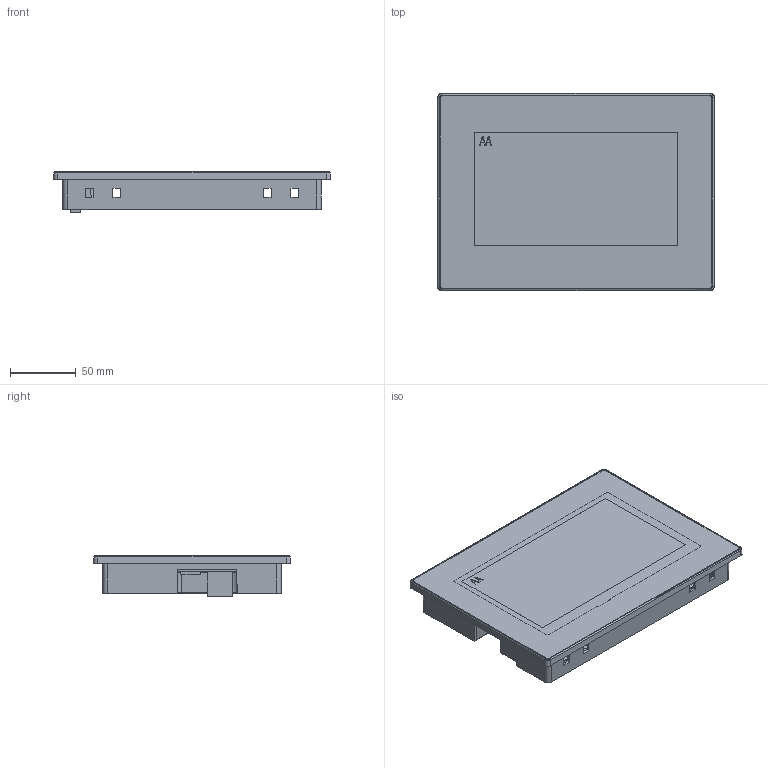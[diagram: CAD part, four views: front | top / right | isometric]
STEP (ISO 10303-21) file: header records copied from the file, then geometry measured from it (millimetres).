
FILE_DESCRIPTION(/* description */ (''),/* implementation_level */ '2;1');
FILE_NAME(/* name */ 'VTc070S14AT和VTc070S14AFT.stp',/* time_stamp */ '2025-02-08T15:53:03+08:00',/* author */ (''),/* organization */ (''),/* preprocessor_version */ 'ST-DEVELOPER v16',/* originating_system */ 'SIEMENS PLM Software NX 10.0',/* authorisation */ '');
FILE_SCHEMA (('AP203_CONFIGURATION_CONTROLLED_3D_DESIGN_OF_MECHANICAL_PARTS_AND_ASSEMBLIES_MIM_LF { 1 0 10303 403 2 1 2}'));
Length unit declared in the file: millimetre
Products named in the file (1): VTc070S14AT和VTc070S14AFT
Bounding box: 210 x 149.5 x 30.7 mm (x, y, z)
Volume: 181658.1 mm3; surface area: 256525.3 mm2
Topology: 10 solids, 10 shells, 824 faces, 2266 edges, 1488 vertices
Faces by surface type: plane 503, cone 210, cylinder 79, torus 16, bspline 12, extrusion 4
Full cylindrical faces by diameter (mm): 2.6 x6, 2.8 x4, 7.5 x6
Entity records: 27359 total; most frequent: CARTESIAN_POINT 5576, ORIENTED_EDGE 4498, DIRECTION 4343, EDGE_CURVE 2249, VECTOR 1541, LINE 1537, VERTEX_POINT 1488, AXIS2_PLACEMENT_3D 1401
